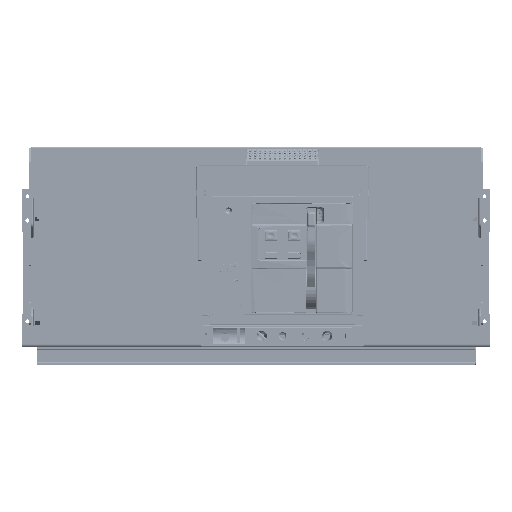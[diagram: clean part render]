
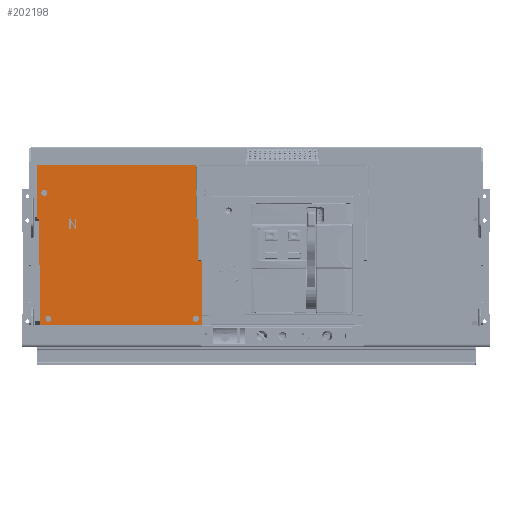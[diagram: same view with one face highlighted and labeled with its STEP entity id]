
A CAD part, front view. The second image highlights one B-rep face of the part: STEP entity #202198.
In plain terms, the highlighted planar face has unit normal (0, -1, 0) as drawn and (0, 0, -1) by its records, which use the part's own axes.
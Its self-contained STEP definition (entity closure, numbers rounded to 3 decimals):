
#184162=DIRECTION('',(-1.,0.,0.));
#184163=VECTOR('',#184162,4.);
#184164=CARTESIAN_POINT('',(-102.951,210.494,0.));
#184165=LINE('',#184164,#184163);
#184176=CARTESIAN_POINT('',(-101.701,-6.506,0.));
#184177=DIRECTION('',(0.,0.,1.));
#184178=DIRECTION('',(1.,0.,0.));
#184179=AXIS2_PLACEMENT_3D('',#184176,#184177,#184178);
#184184=CARTESIAN_POINT('',(-101.701,-6.506,0.));
#184185=DIRECTION('',(0.,0.,1.));
#184186=DIRECTION('',(-1.,0.,0.));
#184187=AXIS2_PLACEMENT_3D('',#184184,#184185,#184186);
#184192=CARTESIAN_POINT('',(218.299,-6.506,0.));
#184193=DIRECTION('',(0.,0.,1.));
#184194=DIRECTION('',(1.,0.,0.));
#184195=AXIS2_PLACEMENT_3D('',#184192,#184193,#184194);
#184200=CARTESIAN_POINT('',(218.299,-6.506,0.));
#184201=DIRECTION('',(0.,0.,1.));
#184202=DIRECTION('',(-1.,0.,0.));
#184203=AXIS2_PLACEMENT_3D('',#184200,#184201,#184202);
#184208=CARTESIAN_POINT('',(227.299,266.494,0.));
#184209=DIRECTION('',(0.,0.,1.));
#184210=DIRECTION('',(1.,0.,0.));
#184211=AXIS2_PLACEMENT_3D('',#184208,#184209,#184210);
#184216=CARTESIAN_POINT('',(227.299,266.494,0.));
#184217=DIRECTION('',(0.,0.,1.));
#184218=DIRECTION('',(-1.,0.,0.));
#184219=AXIS2_PLACEMENT_3D('',#184216,#184217,#184218);
#184224=DIRECTION('',(0.492,0.871,0.));
#184225=VECTOR('',#184224,18.3);
#184226=CARTESIAN_POINT('',(160.799,188.994,0.));
#184227=LINE('',#184226,#184225);
#184231=DIRECTION('',(-0.492,-0.871,0.));
#184232=VECTOR('',#184231,18.3);
#184233=CARTESIAN_POINT('',(169.799,208.994,0.));
#184234=LINE('',#184233,#184232);
#184238=DIRECTION('',(0.,1.,0.));
#184239=VECTOR('',#184238,91.);
#184240=CARTESIAN_POINT('',(-106.951,119.494,0.));
#184241=LINE('',#184240,#184239);
#184245=DIRECTION('',(1.,0.,0.));
#184246=VECTOR('',#184245,7.5);
#184247=CARTESIAN_POINT('',(-114.451,119.494,0.));
#184248=LINE('',#184247,#184246);
#184252=DIRECTION('',(0.,1.,0.));
#184253=VECTOR('',#184252,139.5);
#184254=CARTESIAN_POINT('',(-114.451,-20.006,0.));
#184255=LINE('',#184254,#184253);
#184259=DIRECTION('',(-1.,0.,0.));
#184260=VECTOR('',#184259,351.745);
#184261=CARTESIAN_POINT('',(237.294,-20.006,0.));
#184262=LINE('',#184261,#184260);
#184266=DIRECTION('',(0.,-1.,0.));
#184267=VECTOR('',#184266,129.);
#184268=CARTESIAN_POINT('',(237.294,108.994,0.));
#184269=LINE('',#184268,#184267);
#184273=DIRECTION('',(-1.,0.,0.));
#184274=VECTOR('',#184273,2.);
#184275=CARTESIAN_POINT('',(239.294,108.994,0.));
#184276=LINE('',#184275,#184274);
#184280=DIRECTION('',(0.,-1.,0.));
#184281=VECTOR('',#184280,100.);
#184282=CARTESIAN_POINT('',(239.294,208.994,0.));
#184283=LINE('',#184282,#184281);
#184287=DIRECTION('',(0.,-1.,0.));
#184288=VECTOR('',#184287,117.);
#184289=CARTESIAN_POINT('',(243.794,325.994,0.));
#184290=LINE('',#184289,#184288);
#184294=DIRECTION('',(1.,0.,0.));
#184295=VECTOR('',#184294,346.745);
#184296=CARTESIAN_POINT('',(-102.951,325.994,0.));
#184297=LINE('',#184296,#184295);
#184301=DIRECTION('',(0.,1.,0.));
#184302=VECTOR('',#184301,115.5);
#184303=CARTESIAN_POINT('',(-102.951,210.494,0.));
#184304=LINE('',#184303,#184302);
#191135=DIRECTION('',(1.,0.,0.));
#191136=VECTOR('',#191135,4.5);
#191137=CARTESIAN_POINT('',(239.294,208.994,0.));
#191138=LINE('',#191137,#191136);
#199384=DIRECTION('',(0.,-1.,0.));
#199385=VECTOR('',#199384,20.);
#199386=CARTESIAN_POINT('',(172.799,208.994,0.));
#199387=LINE('',#199386,#199385);
#199398=DIRECTION('',(1.,0.,0.));
#199399=VECTOR('',#199398,3.);
#199400=CARTESIAN_POINT('',(169.799,208.994,0.));
#199401=LINE('',#199400,#199399);
#199419=DIRECTION('',(0.,-1.,0.));
#199420=VECTOR('',#199419,15.933);
#199421=CARTESIAN_POINT('',(160.799,208.994,0.));
#199422=LINE('',#199421,#199420);
#199433=DIRECTION('',(1.,0.,0.));
#199434=VECTOR('',#199433,3.);
#199435=CARTESIAN_POINT('',(157.799,208.994,0.));
#199436=LINE('',#199435,#199434);
#199447=DIRECTION('',(0.,1.,0.));
#199448=VECTOR('',#199447,20.);
#199449=CARTESIAN_POINT('',(157.799,188.994,0.));
#199450=LINE('',#199449,#199448);
#199461=DIRECTION('',(-1.,0.,0.));
#199462=VECTOR('',#199461,3.);
#199463=CARTESIAN_POINT('',(160.799,188.994,0.));
#199464=LINE('',#199463,#199462);
#199482=DIRECTION('',(0.,1.,0.));
#199483=VECTOR('',#199482,15.933);
#199484=CARTESIAN_POINT('',(169.799,188.994,0.));
#199485=LINE('',#199484,#199483);
#199496=DIRECTION('',(-1.,0.,0.));
#199497=VECTOR('',#199496,3.);
#199498=CARTESIAN_POINT('',(172.799,188.994,0.));
#199499=LINE('',#199498,#199497);
#199581=CARTESIAN_POINT('',(-114.451,119.494,0.));
#199583=VERTEX_POINT('',#199581);
#199584=CARTESIAN_POINT('',(-114.451,-20.006,0.));
#199585=VERTEX_POINT('',#199584);
#199588=CARTESIAN_POINT('',(172.799,208.994,0.));
#199589=CARTESIAN_POINT('',(172.799,188.994,0.));
#199590=VERTEX_POINT('',#199588);
#199591=VERTEX_POINT('',#199589);
#199592=CARTESIAN_POINT('',(169.799,208.994,0.));
#199593=VERTEX_POINT('',#199592);
#199594=CARTESIAN_POINT('',(160.799,193.06,0.));
#199595=VERTEX_POINT('',#199594);
#199596=CARTESIAN_POINT('',(160.799,208.994,0.));
#199597=VERTEX_POINT('',#199596);
#199598=CARTESIAN_POINT('',(157.799,208.994,0.));
#199599=VERTEX_POINT('',#199598);
#199600=CARTESIAN_POINT('',(157.799,188.994,0.));
#199601=VERTEX_POINT('',#199600);
#199602=CARTESIAN_POINT('',(160.799,188.994,0.));
#199603=VERTEX_POINT('',#199602);
#199604=CARTESIAN_POINT('',(169.799,204.927,0.));
#199605=VERTEX_POINT('',#199604);
#199606=CARTESIAN_POINT('',(169.799,188.994,0.));
#199607=VERTEX_POINT('',#199606);
#199608=CARTESIAN_POINT('',(-106.951,119.494,0.));
#199609=CARTESIAN_POINT('',(-106.951,210.494,0.));
#199610=VERTEX_POINT('',#199608);
#199611=VERTEX_POINT('',#199609);
#199612=CARTESIAN_POINT('',(-102.951,210.494,0.));
#199613=VERTEX_POINT('',#199612);
#199614=CARTESIAN_POINT('',(-102.951,325.994,0.));
#199615=VERTEX_POINT('',#199614);
#199616=CARTESIAN_POINT('',(243.794,325.994,0.));
#199617=VERTEX_POINT('',#199616);
#199618=CARTESIAN_POINT('',(243.794,208.994,0.));
#199619=VERTEX_POINT('',#199618);
#199620=CARTESIAN_POINT('',(239.294,208.994,0.));
#199621=VERTEX_POINT('',#199620);
#199622=CARTESIAN_POINT('',(239.294,108.994,0.));
#199623=VERTEX_POINT('',#199622);
#199624=CARTESIAN_POINT('',(237.294,108.994,0.));
#199625=VERTEX_POINT('',#199624);
#199626=CARTESIAN_POINT('',(237.294,-20.006,0.));
#199627=VERTEX_POINT('',#199626);
#202004=CARTESIAN_POINT('',(224.799,-6.506,0.));
#202006=VERTEX_POINT('',#202004);
#202008=CARTESIAN_POINT('',(211.799,-6.506,0.));
#202010=VERTEX_POINT('',#202008);
#202012=CARTESIAN_POINT('',(233.799,266.494,0.));
#202014=VERTEX_POINT('',#202012);
#202016=CARTESIAN_POINT('',(220.799,266.494,0.));
#202018=VERTEX_POINT('',#202016);
#202028=CARTESIAN_POINT('',(-95.201,-6.506,0.));
#202030=VERTEX_POINT('',#202028);
#202032=CARTESIAN_POINT('',(-108.201,-6.506,0.));
#202034=VERTEX_POINT('',#202032);
#202131=CARTESIAN_POINT('',(115.799,-20.006,0.));
#202132=DIRECTION('',(0.,0.,1.));
#202133=DIRECTION('',(1.,0.,0.));
#202134=AXIS2_PLACEMENT_3D('',#202131,#202132,#202133);
#202135=PLANE('',#202134);
#202136=ORIENTED_EDGE('',*,*,#202075,.F.);
#202137=ORIENTED_EDGE('',*,*,#202062,.F.);
#202138=ORIENTED_EDGE('',*,*,#202047,.F.);
#202140=ORIENTED_EDGE('',*,*,#202139,.F.);
#202142=ORIENTED_EDGE('',*,*,#202141,.F.);
#202144=ORIENTED_EDGE('',*,*,#202143,.F.);
#202146=ORIENTED_EDGE('',*,*,#202145,.F.);
#202148=ORIENTED_EDGE('',*,*,#202147,.T.);
#202150=ORIENTED_EDGE('',*,*,#202149,.F.);
#202152=ORIENTED_EDGE('',*,*,#202151,.F.);
#202154=ORIENTED_EDGE('',*,*,#202153,.F.);
#202155=ORIENTED_EDGE('',*,*,#202122,.T.);
#202156=EDGE_LOOP('',(#202136,#202137,#202138,#202140,#202142,#202144,#202146,
#202148,#202150,#202152,#202154,#202155));
#202157=FACE_OUTER_BOUND('',#202156,.F.);
#202159=ORIENTED_EDGE('',*,*,#202158,.F.);
#202161=ORIENTED_EDGE('',*,*,#202160,.F.);
#202162=EDGE_LOOP('',(#202159,#202161));
#202163=FACE_BOUND('',#202162,.F.);
#202165=ORIENTED_EDGE('',*,*,#202164,.F.);
#202167=ORIENTED_EDGE('',*,*,#202166,.F.);
#202168=EDGE_LOOP('',(#202165,#202167));
#202169=FACE_BOUND('',#202168,.F.);
#202171=ORIENTED_EDGE('',*,*,#202170,.T.);
#202173=ORIENTED_EDGE('',*,*,#202172,.T.);
#202175=ORIENTED_EDGE('',*,*,#202174,.T.);
#202177=ORIENTED_EDGE('',*,*,#202176,.F.);
#202179=ORIENTED_EDGE('',*,*,#202178,.T.);
#202181=ORIENTED_EDGE('',*,*,#202180,.T.);
#202183=ORIENTED_EDGE('',*,*,#202182,.T.);
#202185=ORIENTED_EDGE('',*,*,#202184,.T.);
#202187=ORIENTED_EDGE('',*,*,#202186,.F.);
#202189=ORIENTED_EDGE('',*,*,#202188,.T.);
#202190=EDGE_LOOP('',(#202171,#202173,#202175,#202177,#202179,#202181,#202183,
#202185,#202187,#202189));
#202191=FACE_BOUND('',#202190,.F.);
#202193=ORIENTED_EDGE('',*,*,#202192,.F.);
#202195=ORIENTED_EDGE('',*,*,#202194,.F.);
#202196=EDGE_LOOP('',(#202193,#202195));
#202197=FACE_BOUND('',#202196,.F.);
#202198=ADVANCED_FACE('',(#202157,#202163,#202169,#202191,#202197),#202135,.F.);
#184180=CIRCLE('',#184179,6.5);
#184188=CIRCLE('',#184187,6.5);
#184196=CIRCLE('',#184195,6.5);
#184204=CIRCLE('',#184203,6.5);
#184212=CIRCLE('',#184211,6.5);
#184220=CIRCLE('',#184219,6.5);
#202047=EDGE_CURVE('',#199585,#199583,#184255,.T.);
#202062=EDGE_CURVE('',#199583,#199610,#184248,.T.);
#202075=EDGE_CURVE('',#199610,#199611,#184241,.T.);
#202122=EDGE_CURVE('',#199613,#199611,#184165,.T.);
#202139=EDGE_CURVE('',#199627,#199585,#184262,.T.);
#202141=EDGE_CURVE('',#199625,#199627,#184269,.T.);
#202143=EDGE_CURVE('',#199623,#199625,#184276,.T.);
#202145=EDGE_CURVE('',#199621,#199623,#184283,.T.);
#202147=EDGE_CURVE('',#199621,#199619,#191138,.T.);
#202149=EDGE_CURVE('',#199617,#199619,#184290,.T.);
#202151=EDGE_CURVE('',#199615,#199617,#184297,.T.);
#202153=EDGE_CURVE('',#199613,#199615,#184304,.T.);
#202158=EDGE_CURVE('',#202006,#202010,#184196,.T.);
#202160=EDGE_CURVE('',#202010,#202006,#184204,.T.);
#202164=EDGE_CURVE('',#202014,#202018,#184212,.T.);
#202166=EDGE_CURVE('',#202018,#202014,#184220,.T.);
#202170=EDGE_CURVE('',#199590,#199591,#199387,.T.);
#202172=EDGE_CURVE('',#199591,#199607,#199499,.T.);
#202174=EDGE_CURVE('',#199607,#199605,#199485,.T.);
#202176=EDGE_CURVE('',#199603,#199605,#184227,.T.);
#202178=EDGE_CURVE('',#199603,#199601,#199464,.T.);
#202180=EDGE_CURVE('',#199601,#199599,#199450,.T.);
#202182=EDGE_CURVE('',#199599,#199597,#199436,.T.);
#202184=EDGE_CURVE('',#199597,#199595,#199422,.T.);
#202186=EDGE_CURVE('',#199593,#199595,#184234,.T.);
#202188=EDGE_CURVE('',#199593,#199590,#199401,.T.);
#202192=EDGE_CURVE('',#202030,#202034,#184180,.T.);
#202194=EDGE_CURVE('',#202034,#202030,#184188,.T.);
